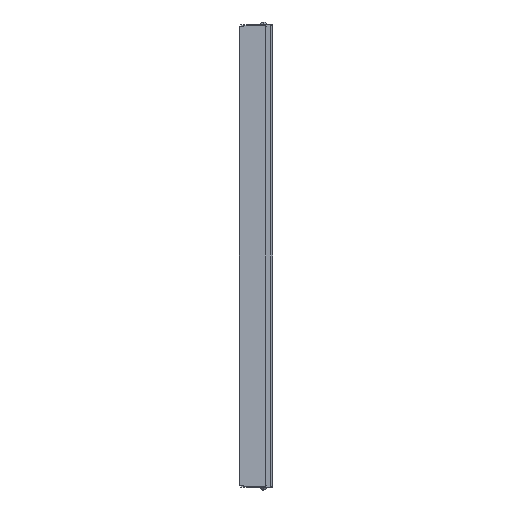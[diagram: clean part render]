
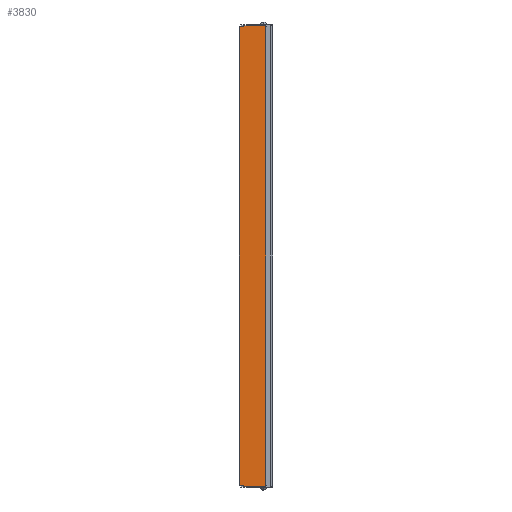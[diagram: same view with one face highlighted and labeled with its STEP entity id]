
A CAD part, left-side view. The second image highlights one B-rep face of the part: STEP entity #3830.
In plain terms, the highlighted planar face has unit normal (-1, 0, 0).
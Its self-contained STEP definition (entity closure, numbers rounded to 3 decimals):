
#466=DIRECTION('',(0.,1.,0.));
#467=VECTOR('',#466,3.303);
#468=CARTESIAN_POINT('',(-14.,13.197,184.5));
#469=LINE('',#468,#467);
#839=DIRECTION('',(0.,1.,0.));
#840=VECTOR('',#839,17.497);
#841=CARTESIAN_POINT('',(-14.,-4.3,185.5));
#842=LINE('',#841,#840);
#847=DIRECTION('',(0.,0.,1.));
#848=VECTOR('',#847,371.);
#849=CARTESIAN_POINT('',(-14.,-4.3,-185.5));
#850=LINE('',#849,#848);
#1202=DIRECTION('',(0.,0.,-1.));
#1203=VECTOR('',#1202,369.);
#1204=CARTESIAN_POINT('',(-14.,16.5,184.5));
#1205=LINE('',#1204,#1203);
#1206=DIRECTION('',(0.,0.,1.));
#1207=VECTOR('',#1206,1.);
#1208=CARTESIAN_POINT('',(-14.,13.197,-185.5));
#1209=LINE('',#1208,#1207);
#1210=DIRECTION('',(0.,1.,0.));
#1211=VECTOR('',#1210,3.303);
#1212=CARTESIAN_POINT('',(-14.,13.197,-184.5));
#1213=LINE('',#1212,#1211);
#1214=DIRECTION('',(0.,0.,1.));
#1215=VECTOR('',#1214,1.);
#1216=CARTESIAN_POINT('',(-14.,13.197,184.5));
#1217=LINE('',#1216,#1215);
#1222=DIRECTION('',(0.,-1.,0.));
#1223=VECTOR('',#1222,17.497);
#1224=CARTESIAN_POINT('',(-14.,13.197,-185.5));
#1225=LINE('',#1224,#1223);
#1810=CARTESIAN_POINT('',(-14.,16.5,-184.5));
#1811=VERTEX_POINT('',#1810);
#1820=CARTESIAN_POINT('',(-14.,16.5,184.5));
#1821=VERTEX_POINT('',#1820);
#2026=CARTESIAN_POINT('',(-14.,13.197,185.5));
#2027=VERTEX_POINT('',#2026);
#2052=CARTESIAN_POINT('',(-14.,-4.3,185.5));
#2053=VERTEX_POINT('',#2052);
#2098=CARTESIAN_POINT('',(-14.,13.197,184.5));
#2100=VERTEX_POINT('',#2098);
#2284=CARTESIAN_POINT('',(-14.,13.197,-185.5));
#2285=VERTEX_POINT('',#2284);
#2286=CARTESIAN_POINT('',(-14.,-4.3,-185.5));
#2287=VERTEX_POINT('',#2286);
#2328=CARTESIAN_POINT('',(-14.,13.197,-184.5));
#2329=VERTEX_POINT('',#2328);
#3813=CARTESIAN_POINT('',(-14.,16.5,-184.5));
#3814=DIRECTION('',(-1.,0.,0.));
#3815=DIRECTION('',(0.,-1.,0.));
#3816=AXIS2_PLACEMENT_3D('',#3813,#3814,#3815);
#3817=PLANE('',#3816);
#3818=ORIENTED_EDGE('',*,*,#3213,.F.);
#3820=ORIENTED_EDGE('',*,*,#3819,.F.);
#3822=ORIENTED_EDGE('',*,*,#3821,.T.);
#3823=ORIENTED_EDGE('',*,*,#2447,.T.);
#3824=ORIENTED_EDGE('',*,*,#3808,.F.);
#3825=ORIENTED_EDGE('',*,*,#2856,.F.);
#3826=ORIENTED_EDGE('',*,*,#3183,.T.);
#3827=ORIENTED_EDGE('',*,*,#3198,.F.);
#3828=EDGE_LOOP('',(#3818,#3820,#3822,#3823,#3824,#3825,#3826,#3827));
#3829=FACE_OUTER_BOUND('',#3828,.F.);
#2447=EDGE_CURVE('',#2329,#1811,#1213,.T.);
#2856=EDGE_CURVE('',#2100,#1821,#469,.T.);
#3183=EDGE_CURVE('',#2100,#2027,#1217,.T.);
#3198=EDGE_CURVE('',#2053,#2027,#842,.T.);
#3213=EDGE_CURVE('',#2287,#2053,#850,.T.);
#3808=EDGE_CURVE('',#1821,#1811,#1205,.T.);
#3819=EDGE_CURVE('',#2285,#2287,#1225,.T.);
#3821=EDGE_CURVE('',#2285,#2329,#1209,.T.);
#3830=ADVANCED_FACE('',(#3829),#3817,.T.);
